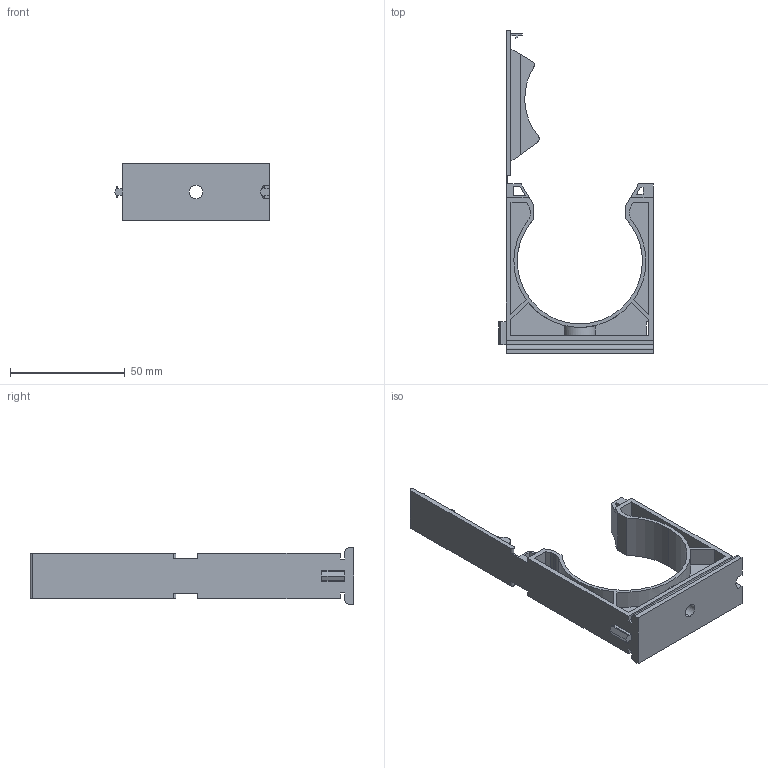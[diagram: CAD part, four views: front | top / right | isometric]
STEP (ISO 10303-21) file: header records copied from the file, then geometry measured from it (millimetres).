
FILE_DESCRIPTION (( 'STEP AP203' ), '1' );
FILE_NAME ('WQSC-AD54.5.STEP', '2013-03-15T04:46:43', ( 'hp' ), ( 'Hewlett-Packard Company' ), 'SwSTEP 2.0', 'SolidWorks 2010', '' );
FILE_SCHEMA (( 'CONFIG_CONTROL_DESIGN' ));
Length unit declared in the file: millimetre
Products named in the file (1): WQSC-AD54.5
Bounding box: 67.38 x 141 x 24.5 mm (x, y, z)
Volume: 28218.8 mm3; surface area: 23148.1 mm2
Topology: 1 solids, 1 shells, 160 faces, 452 edges, 300 vertices
Faces by surface type: plane 123, cylinder 37
Entity records: 5367 total; most frequent: CARTESIAN_POINT 1053, ORIENTED_EDGE 904, DIRECTION 844, EDGE_CURVE 452, VECTOR 374, LINE 374, VERTEX_POINT 300, AXIS2_PLACEMENT_3D 235
